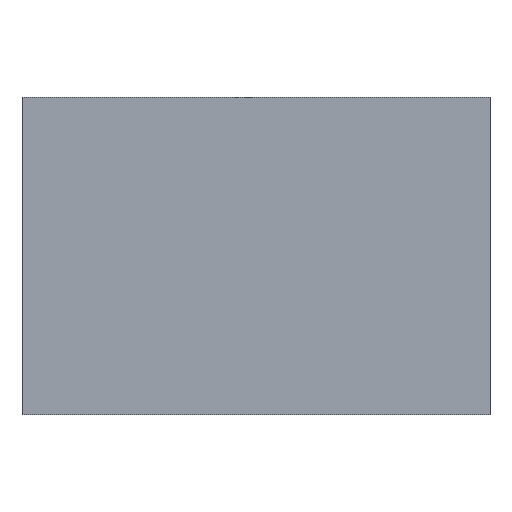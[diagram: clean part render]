
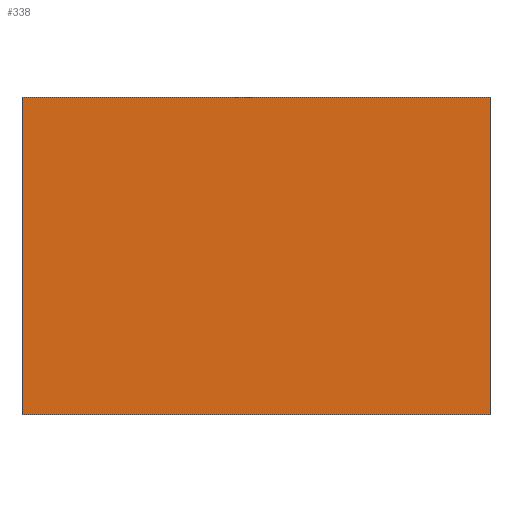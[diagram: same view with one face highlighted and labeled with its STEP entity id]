
A CAD part, top view. The second image highlights one B-rep face of the part: STEP entity #338.
In plain terms, the highlighted planar face has unit normal (0, 0, 1).
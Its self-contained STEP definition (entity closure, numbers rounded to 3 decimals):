
#24 = VERTEX_POINT('',#25);
#25 = CARTESIAN_POINT('',(-332.,-225.,9.));
#32 = PLANE('',#33);
#33 = AXIS2_PLACEMENT_3D('',#34,#35,#36);
#34 = CARTESIAN_POINT('',(-332.,-225.,-9.));
#35 = DIRECTION('',(1.,0.,0.));
#36 = DIRECTION('',(0.,0.,1.));
#44 = PLANE('',#45);
#45 = AXIS2_PLACEMENT_3D('',#46,#47,#48);
#46 = CARTESIAN_POINT('',(-332.,-225.,-9.));
#47 = DIRECTION('',(0.,1.,0.));
#48 = DIRECTION('',(0.,0.,1.));
#85 = VERTEX_POINT('',#86);
#86 = CARTESIAN_POINT('',(-332.,225.,9.));
#100 = PLANE('',#101);
#101 = AXIS2_PLACEMENT_3D('',#102,#103,#104);
#102 = CARTESIAN_POINT('',(-332.,225.,-9.));
#103 = DIRECTION('',(0.,1.,0.));
#104 = DIRECTION('',(0.,0.,1.));
#112 = EDGE_CURVE('',#24,#85,#113,.T.);
#113 = SURFACE_CURVE('',#114,(#118,#125),.PCURVE_S1.);
#114 = LINE('',#115,#116);
#115 = CARTESIAN_POINT('',(-332.,-225.,9.));
#116 = VECTOR('',#117,1.);
#117 = DIRECTION('',(0.,1.,0.));
#118 = PCURVE('',#32,#119);
#119 = DEFINITIONAL_REPRESENTATION('',(#120),#124);
#120 = LINE('',#121,#122);
#121 = CARTESIAN_POINT('',(18.,0.));
#122 = VECTOR('',#123,1.);
#123 = DIRECTION('',(0.,-1.));
#124 = ( GEOMETRIC_REPRESENTATION_CONTEXT(2) 
PARAMETRIC_REPRESENTATION_CONTEXT() REPRESENTATION_CONTEXT('2D SPACE',''
  ) );
#125 = PCURVE('',#126,#131);
#126 = PLANE('',#127);
#127 = AXIS2_PLACEMENT_3D('',#128,#129,#130);
#128 = CARTESIAN_POINT('',(-332.,-225.,9.));
#129 = DIRECTION('',(0.,0.,1.));
#130 = DIRECTION('',(1.,0.,0.));
#131 = DEFINITIONAL_REPRESENTATION('',(#132),#136);
#132 = LINE('',#133,#134);
#133 = CARTESIAN_POINT('',(0.,0.));
#134 = VECTOR('',#135,1.);
#135 = DIRECTION('',(0.,1.));
#136 = ( GEOMETRIC_REPRESENTATION_CONTEXT(2) 
PARAMETRIC_REPRESENTATION_CONTEXT() REPRESENTATION_CONTEXT('2D SPACE',''
  ) );
#144 = VERTEX_POINT('',#145);
#145 = CARTESIAN_POINT('',(332.,-225.,9.));
#152 = PLANE('',#153);
#153 = AXIS2_PLACEMENT_3D('',#154,#155,#156);
#154 = CARTESIAN_POINT('',(332.,-225.,-9.));
#155 = DIRECTION('',(1.,0.,0.));
#156 = DIRECTION('',(0.,0.,1.));
#195 = VERTEX_POINT('',#196);
#196 = CARTESIAN_POINT('',(332.,225.,9.));
#217 = EDGE_CURVE('',#144,#195,#218,.T.);
#218 = SURFACE_CURVE('',#219,(#223,#230),.PCURVE_S1.);
#219 = LINE('',#220,#221);
#220 = CARTESIAN_POINT('',(332.,-225.,9.));
#221 = VECTOR('',#222,1.);
#222 = DIRECTION('',(0.,1.,0.));
#223 = PCURVE('',#152,#224);
#224 = DEFINITIONAL_REPRESENTATION('',(#225),#229);
#225 = LINE('',#226,#227);
#226 = CARTESIAN_POINT('',(18.,0.));
#227 = VECTOR('',#228,1.);
#228 = DIRECTION('',(0.,-1.));
#229 = ( GEOMETRIC_REPRESENTATION_CONTEXT(2) 
PARAMETRIC_REPRESENTATION_CONTEXT() REPRESENTATION_CONTEXT('2D SPACE',''
  ) );
#230 = PCURVE('',#126,#231);
#231 = DEFINITIONAL_REPRESENTATION('',(#232),#236);
#232 = LINE('',#233,#234);
#233 = CARTESIAN_POINT('',(664.,0.));
#234 = VECTOR('',#235,1.);
#235 = DIRECTION('',(0.,1.));
#236 = ( GEOMETRIC_REPRESENTATION_CONTEXT(2) 
PARAMETRIC_REPRESENTATION_CONTEXT() REPRESENTATION_CONTEXT('2D SPACE',''
  ) );
#263 = EDGE_CURVE('',#24,#144,#264,.T.);
#264 = SURFACE_CURVE('',#265,(#269,#276),.PCURVE_S1.);
#265 = LINE('',#266,#267);
#266 = CARTESIAN_POINT('',(-332.,-225.,9.));
#267 = VECTOR('',#268,1.);
#268 = DIRECTION('',(1.,0.,0.));
#269 = PCURVE('',#44,#270);
#270 = DEFINITIONAL_REPRESENTATION('',(#271),#275);
#271 = LINE('',#272,#273);
#272 = CARTESIAN_POINT('',(18.,0.));
#273 = VECTOR('',#274,1.);
#274 = DIRECTION('',(0.,1.));
#275 = ( GEOMETRIC_REPRESENTATION_CONTEXT(2) 
PARAMETRIC_REPRESENTATION_CONTEXT() REPRESENTATION_CONTEXT('2D SPACE',''
  ) );
#276 = PCURVE('',#126,#277);
#277 = DEFINITIONAL_REPRESENTATION('',(#278),#282);
#278 = LINE('',#279,#280);
#279 = CARTESIAN_POINT('',(0.,0.));
#280 = VECTOR('',#281,1.);
#281 = DIRECTION('',(1.,0.));
#282 = ( GEOMETRIC_REPRESENTATION_CONTEXT(2) 
PARAMETRIC_REPRESENTATION_CONTEXT() REPRESENTATION_CONTEXT('2D SPACE',''
  ) );
#310 = EDGE_CURVE('',#85,#195,#311,.T.);
#311 = SURFACE_CURVE('',#312,(#316,#323),.PCURVE_S1.);
#312 = LINE('',#313,#314);
#313 = CARTESIAN_POINT('',(-332.,225.,9.));
#314 = VECTOR('',#315,1.);
#315 = DIRECTION('',(1.,0.,0.));
#316 = PCURVE('',#100,#317);
#317 = DEFINITIONAL_REPRESENTATION('',(#318),#322);
#318 = LINE('',#319,#320);
#319 = CARTESIAN_POINT('',(18.,0.));
#320 = VECTOR('',#321,1.);
#321 = DIRECTION('',(0.,1.));
#322 = ( GEOMETRIC_REPRESENTATION_CONTEXT(2) 
PARAMETRIC_REPRESENTATION_CONTEXT() REPRESENTATION_CONTEXT('2D SPACE',''
  ) );
#323 = PCURVE('',#126,#324);
#324 = DEFINITIONAL_REPRESENTATION('',(#325),#329);
#325 = LINE('',#326,#327);
#326 = CARTESIAN_POINT('',(0.,450.));
#327 = VECTOR('',#328,1.);
#328 = DIRECTION('',(1.,0.));
#329 = ( GEOMETRIC_REPRESENTATION_CONTEXT(2) 
PARAMETRIC_REPRESENTATION_CONTEXT() REPRESENTATION_CONTEXT('2D SPACE',''
  ) );
#338 = ADVANCED_FACE('',(#339),#126,.T.);
#339 = FACE_BOUND('',#340,.T.);
#340 = EDGE_LOOP('',(#341,#342,#343,#344));
#341 = ORIENTED_EDGE('',*,*,#112,.F.);
#342 = ORIENTED_EDGE('',*,*,#263,.T.);
#343 = ORIENTED_EDGE('',*,*,#217,.T.);
#344 = ORIENTED_EDGE('',*,*,#310,.F.);
